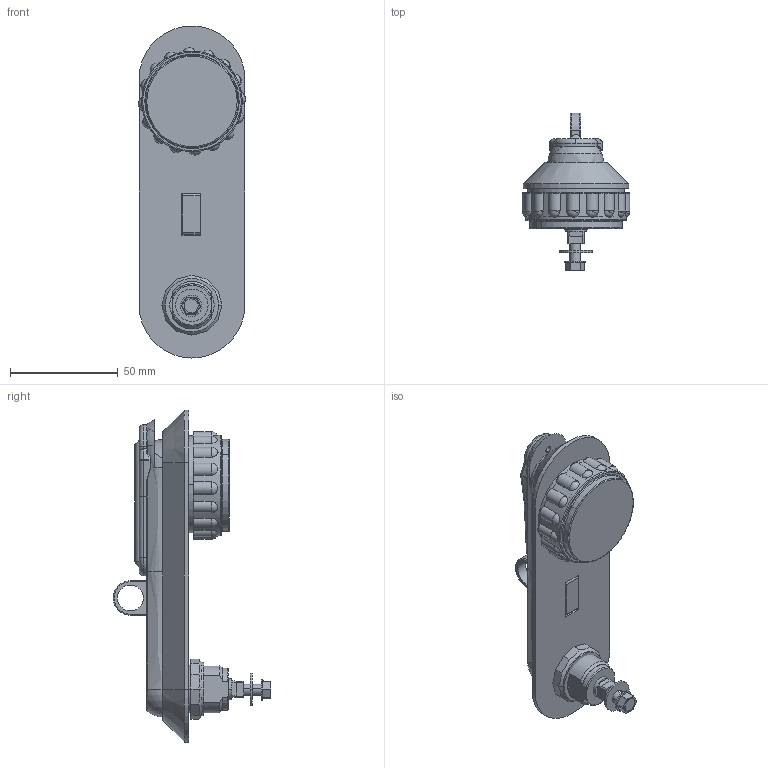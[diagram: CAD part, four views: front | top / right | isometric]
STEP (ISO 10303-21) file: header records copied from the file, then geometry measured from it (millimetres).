
FILE_DESCRIPTION (( 'STEP AP214' ), '1' );
FILE_NAME ('RS400-U.STEP', '2010-02-25T12:25:17', ( 'Techniczny' ), ( 'RST Roztocze' ), 'SwSTEP 2.0', 'SolidWorks 2010', '' );
FILE_SCHEMA (( 'AUTOMOTIVE_DESIGN' ));
Length unit declared in the file: millimetre
Products named in the file (14): 1B RS 400.01.02.00; 6,5 x 1_Default; 1B.RS400.02.03.01_Default; 1B.RS100-U.02.04.01_Default; Zapinka RESS; 1B.RS300.01.05.00; M5 x 16; 1B.RS100.01.04.00; 1B.RS100.01.03.00; 1B.RS400-U.02.01.00_Default; RS400-U; 1B.RS 100.01.06.00; 1B.RS400-U.01.01.00_Ucho; 1B. RS100.02.02.00
Assembly tree (13 placements, depth 2):
  RS400-U
    1B. RS100.02.02.00
    1B.RS400-U.02.01.00_Default
    1B RS 400.01.02.00
    1B.RS400-U.01.01.00_Ucho
    6,5 x 1_Default
    Zapinka RESS
    1B.RS 100.01.06.00
    1B.RS100.01.03.00
    1B.RS300.01.05.00
    M5 x 16
    1B.RS400.02.03.01_Default
    1B.RS100-U.02.04.01_Default
    1B.RS100.01.04.00
Bounding box: 49.85 x 73.16 x 154 mm (x, y, z)
Volume: 95118.5 mm3; surface area: 58044.4 mm2
Topology: 13 solids, 13 shells, 537 faces, 1382 edges, 872 vertices
Faces by surface type: plane 187, cylinder 180, torus 66, sphere 38, bspline 36, cone 30
Entity records: 20196 total; most frequent: CARTESIAN_POINT 6114, DIRECTION 2719, ORIENTED_EDGE 2714, EDGE_CURVE 1357, AXIS2_PLACEMENT_3D 1062, VERTEX_POINT 863, VECTOR 595, LINE 595
